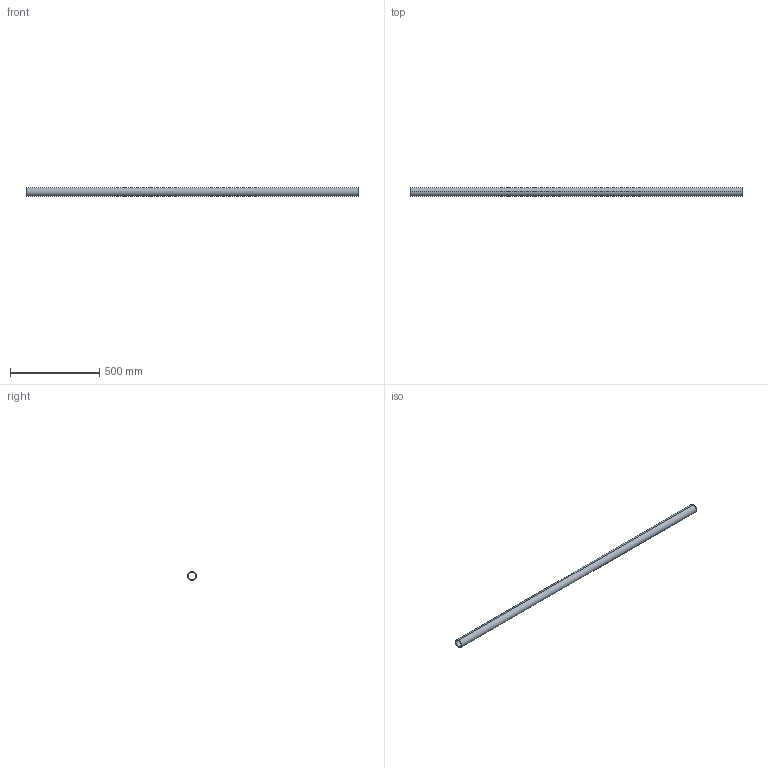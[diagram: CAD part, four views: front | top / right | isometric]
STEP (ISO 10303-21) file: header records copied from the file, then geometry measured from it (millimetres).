
FILE_DESCRIPTION (( 'STEP AP214' ), '1' );
FILE_NAME ('CCJ029-REP.319 - MAIN COURANTE PLATEFORME INFERIEURE B4-B5.STEP', '2024-01-31T10:03:32', ( '' ), ( '' ), 'SwSTEP 2.0', 'SolidWorks 2021', '' );
FILE_SCHEMA (( 'AUTOMOTIVE_DESIGN' ));
Length unit declared in the file: millimetre
Products named in the file (1): CCJ029-REP.319 - MAIN COURANTE PLATEFORME INFERIEURE B4-B5
Bounding box: 1865 x 48.3 x 48.3 mm (x, y, z)
Volume: 670863.5 mm3; surface area: 537410.3 mm2
Topology: 1 solids, 1 shells, 6 faces, 12 edges, 8 vertices
Faces by surface type: cylinder 4, plane 2
Entity records: 202 total; most frequent: DIRECTION 34, CARTESIAN_POINT 27, ORIENTED_EDGE 24, AXIS2_PLACEMENT_3D 15, EDGE_CURVE 12, EDGE_LOOP 8, CIRCLE 8, VERTEX_POINT 8
